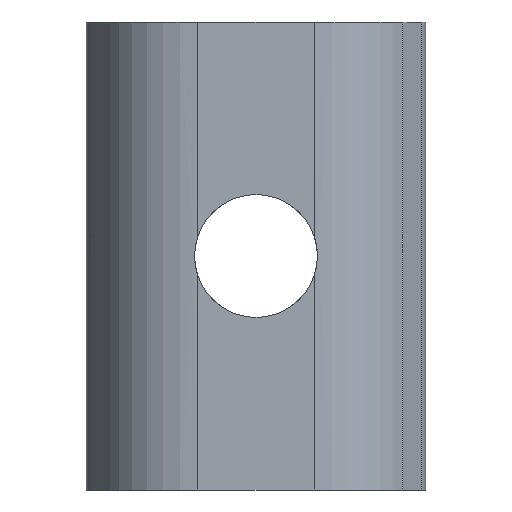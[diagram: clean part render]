
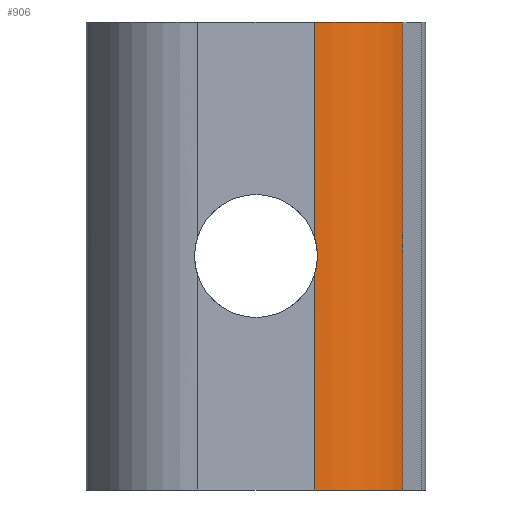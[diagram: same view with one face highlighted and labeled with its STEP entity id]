
A CAD part, front view. The second image highlights one B-rep face of the part: STEP entity #906.
In plain terms, the highlighted cylindrical face has radius 3.5 mm (diameter 7 mm), a partial arc.
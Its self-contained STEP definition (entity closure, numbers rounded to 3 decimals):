
#32 = EDGE_CURVE ( 'NONE', #225, #799, #1113, .T. ) ;
#56 = CARTESIAN_POINT ( 'NONE',  ( 2.1, -4.598, -0.23 ) ) ;
#94 = B_SPLINE_CURVE_WITH_KNOTS ( 'NONE', 3,
 ( #486, #273, #56, #1174, #574, #1283 ),
 .UNSPECIFIED., .F., .F.,
 ( 4, 2, 4 ),
 ( 0., 0.001, 0.001 ),
 .UNSPECIFIED. ) ;
#174 = ORIENTED_EDGE ( 'NONE', *, *, #559, .F. ) ;
#198 = EDGE_CURVE ( 'NONE', #1300, #869, #938, .T. ) ;
#201 = CARTESIAN_POINT ( 'NONE',  ( 5.021, -2.85, 8. ) ) ;
#225 = VERTEX_POINT ( 'NONE', #1231 ) ;
#241 = CARTESIAN_POINT ( 'NONE',  ( 5.021, -2.85, 8. ) ) ;
#255 = DIRECTION ( 'NONE',  ( 0., 0., 1. ) ) ;
#273 = CARTESIAN_POINT ( 'NONE',  ( 2.063, -4.6, -0.454 ) ) ;
#278 = CARTESIAN_POINT ( 'NONE',  ( 1.989, -1.1, -8. ) ) ;
#290 = CARTESIAN_POINT ( 'NONE',  ( 1.989, -4.6, 0.672 ) ) ;
#311 = CARTESIAN_POINT ( 'NONE',  ( 1.989, -4.6, 8. ) ) ;
#314 = CARTESIAN_POINT ( 'NONE',  ( 1.989, -4.6, 8. ) ) ;
#315 = VECTOR ( 'NONE', #903, 1000. ) ;
#346 = VECTOR ( 'NONE', #255, 1000. ) ;
#353 = VERTEX_POINT ( 'NONE', #241 ) ;
#383 = DIRECTION ( 'NONE',  ( 1., 0., 0. ) ) ;
#411 = ORIENTED_EDGE ( 'NONE', *, *, #581, .F. ) ;
#425 = CIRCLE ( 'NONE', #538, 3.5 ) ;
#433 = CIRCLE ( 'NONE', #1145, 3.5 ) ;
#470 = CARTESIAN_POINT ( 'NONE',  ( 1.989, -4.6, 8. ) ) ;
#482 = VERTEX_POINT ( 'NONE', #1269 ) ;
#486 = CARTESIAN_POINT ( 'NONE',  ( 1.989, -4.6, -0.672 ) ) ;
#526 = DIRECTION ( 'NONE',  ( 0., 0., -1. ) ) ;
#538 = AXIS2_PLACEMENT_3D ( 'NONE', #1179, #578, #1287 ) ;
#559 = EDGE_CURVE ( 'NONE', #799, #1300, #94, .T. ) ;
#574 = CARTESIAN_POINT ( 'NONE',  ( 2.063, -4.6, 0.454 ) ) ;
#578 = DIRECTION ( 'NONE',  ( 0., 0., 1. ) ) ;
#581 = EDGE_CURVE ( 'NONE', #869, #353, #425, .T. ) ;
#630 = DIRECTION ( 'NONE',  ( -1., 0., 0. ) ) ;
#640 = ORIENTED_EDGE ( 'NONE', *, *, #717, .F. ) ;
#642 = VECTOR ( 'NONE', #914, 1000. ) ;
#643 = AXIS2_PLACEMENT_3D ( 'NONE', #738, #526, #630 ) ;
#645 = ORIENTED_EDGE ( 'NONE', *, *, #198, .F. ) ;
#717 = EDGE_CURVE ( 'NONE', #353, #482, #1060, .T. ) ;
#725 = CARTESIAN_POINT ( 'NONE',  ( 1.989, -4.6, -0.672 ) ) ;
#738 = CARTESIAN_POINT ( 'NONE',  ( 1.989, -1.1, 8. ) ) ;
#763 = ORIENTED_EDGE ( 'NONE', *, *, #32, .F. ) ;
#799 = VERTEX_POINT ( 'NONE', #725 ) ;
#869 = VERTEX_POINT ( 'NONE', #314 ) ;
#901 = EDGE_LOOP ( 'NONE', ( #174, #763, #997, #640, #411, #645 ) ) ;
#903 = DIRECTION ( 'NONE',  ( 0., 0., -1. ) ) ;
#906 = ADVANCED_FACE ( 'NONE', ( #989 ), #999, .T. ) ;
#914 = DIRECTION ( 'NONE',  ( 0., 0., 1. ) ) ;
#938 = LINE ( 'NONE', #311, #642 ) ;
#986 = DIRECTION ( 'NONE',  ( 0., 0., -1. ) ) ;
#989 = FACE_OUTER_BOUND ( 'NONE', #901, .T. ) ;
#997 = ORIENTED_EDGE ( 'NONE', *, *, #1235, .F. ) ;
#999 = CYLINDRICAL_SURFACE ( 'NONE', #643, 3.5 ) ;
#1060 = LINE ( 'NONE', #201, #315 ) ;
#1113 = LINE ( 'NONE', #470, #346 ) ;
#1145 = AXIS2_PLACEMENT_3D ( 'NONE', #278, #986, #383 ) ;
#1174 = CARTESIAN_POINT ( 'NONE',  ( 2.1, -4.598, 0.229 ) ) ;
#1179 = CARTESIAN_POINT ( 'NONE',  ( 1.989, -1.1, 8. ) ) ;
#1231 = CARTESIAN_POINT ( 'NONE',  ( 1.989, -4.6, -8. ) ) ;
#1235 = EDGE_CURVE ( 'NONE', #482, #225, #433, .T. ) ;
#1269 = CARTESIAN_POINT ( 'NONE',  ( 5.021, -2.85, -8. ) ) ;
#1283 = CARTESIAN_POINT ( 'NONE',  ( 1.989, -4.6, 0.672 ) ) ;
#1287 = DIRECTION ( 'NONE',  ( 1., 0., 0. ) ) ;
#1300 = VERTEX_POINT ( 'NONE', #290 ) ;
